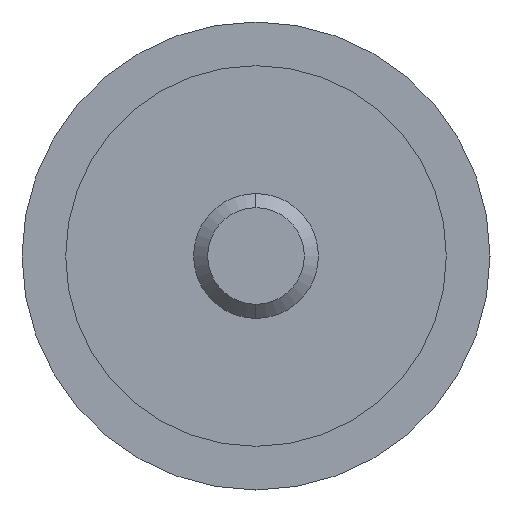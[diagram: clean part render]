
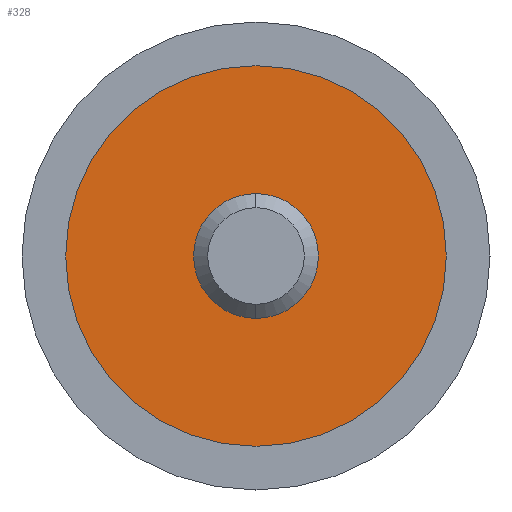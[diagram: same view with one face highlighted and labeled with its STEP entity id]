
A CAD part, left-side view. The second image highlights one B-rep face of the part: STEP entity #328.
In plain terms, the highlighted planar face has unit normal (-1, 0, 0).
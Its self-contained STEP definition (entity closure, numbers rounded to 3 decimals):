
#1 = PLANE ( 'NONE',  #385 ) ;
#61 = DIRECTION ( 'NONE',  ( 0., 0., 1. ) ) ;
#68 = FACE_BOUND ( 'NONE', #311, .T. ) ;
#76 = CIRCLE ( 'NONE', #160, 2. ) ;
#94 = CARTESIAN_POINT ( 'NONE',  ( -4.99, 0., 0. ) ) ;
#97 = VERTEX_POINT ( 'NONE', #674 ) ;
#114 = CARTESIAN_POINT ( 'NONE',  ( -4.99, 0., 0. ) ) ;
#117 = CIRCLE ( 'NONE', #203, 6.1 ) ;
#120 = DIRECTION ( 'NONE',  ( 0., 0., -1. ) ) ;
#121 = VERTEX_POINT ( 'NONE', #137 ) ;
#137 = CARTESIAN_POINT ( 'NONE',  ( -4.99, 0., -2. ) ) ;
#160 = AXIS2_PLACEMENT_3D ( 'NONE', #210, #166, #379 ) ;
#166 = DIRECTION ( 'NONE',  ( -1., 0., 0. ) ) ;
#169 = FACE_OUTER_BOUND ( 'NONE', #229, .T. ) ;
#179 = EDGE_CURVE ( 'NONE', #97, #302, #605, .T. ) ;
#198 = ORIENTED_EDGE ( 'NONE', *, *, #648, .F. ) ;
#200 = ORIENTED_EDGE ( 'NONE', *, *, #179, .T. ) ;
#203 = AXIS2_PLACEMENT_3D ( 'NONE', #274, #529, #61 ) ;
#210 = CARTESIAN_POINT ( 'NONE',  ( -4.99, 0., 0. ) ) ;
#214 = CARTESIAN_POINT ( 'NONE',  ( -4.99, 0., 6.1 ) ) ;
#229 = EDGE_LOOP ( 'NONE', ( #261, #200 ) ) ;
#261 = ORIENTED_EDGE ( 'NONE', *, *, #285, .T. ) ;
#274 = CARTESIAN_POINT ( 'NONE',  ( -4.99, 0., 0. ) ) ;
#281 = AXIS2_PLACEMENT_3D ( 'NONE', #114, #573, #525 ) ;
#285 = EDGE_CURVE ( 'NONE', #302, #97, #117, .T. ) ;
#293 = EDGE_CURVE ( 'NONE', #121, #429, #451, .T. ) ;
#302 = VERTEX_POINT ( 'NONE', #214 ) ;
#311 = EDGE_LOOP ( 'NONE', ( #198, #387 ) ) ;
#316 = AXIS2_PLACEMENT_3D ( 'NONE', #94, #365, #608 ) ;
#328 = ADVANCED_FACE ( 'NONE', ( #169, #68 ), #1, .F. ) ;
#365 = DIRECTION ( 'NONE',  ( -1., 0., 0. ) ) ;
#379 = DIRECTION ( 'NONE',  ( 0., 0., -1. ) ) ;
#385 = AXIS2_PLACEMENT_3D ( 'NONE', #428, #634, #120 ) ;
#387 = ORIENTED_EDGE ( 'NONE', *, *, #293, .F. ) ;
#428 = CARTESIAN_POINT ( 'NONE',  ( -4.99, 6.1, 0. ) ) ;
#429 = VERTEX_POINT ( 'NONE', #458 ) ;
#451 = CIRCLE ( 'NONE', #281, 2. ) ;
#458 = CARTESIAN_POINT ( 'NONE',  ( -4.99, 0., 2. ) ) ;
#525 = DIRECTION ( 'NONE',  ( 0., 0., -1. ) ) ;
#529 = DIRECTION ( 'NONE',  ( -1., 0., 0. ) ) ;
#573 = DIRECTION ( 'NONE',  ( -1., 0., 0. ) ) ;
#605 = CIRCLE ( 'NONE', #316, 6.1 ) ;
#608 = DIRECTION ( 'NONE',  ( 0., 0., 1. ) ) ;
#634 = DIRECTION ( 'NONE',  ( 1., 0., 0. ) ) ;
#648 = EDGE_CURVE ( 'NONE', #429, #121, #76, .T. ) ;
#674 = CARTESIAN_POINT ( 'NONE',  ( -4.99, 0., -6.1 ) ) ;
